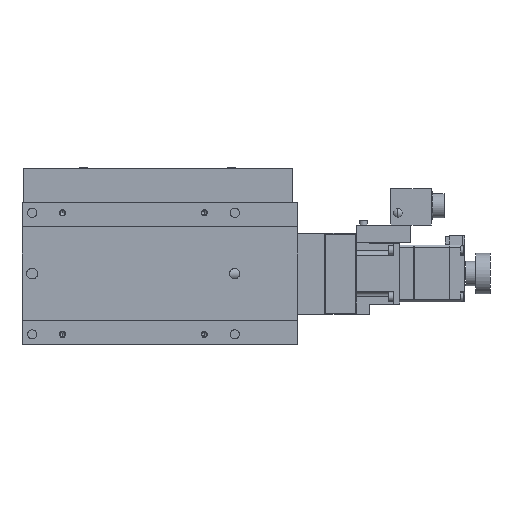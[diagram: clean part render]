
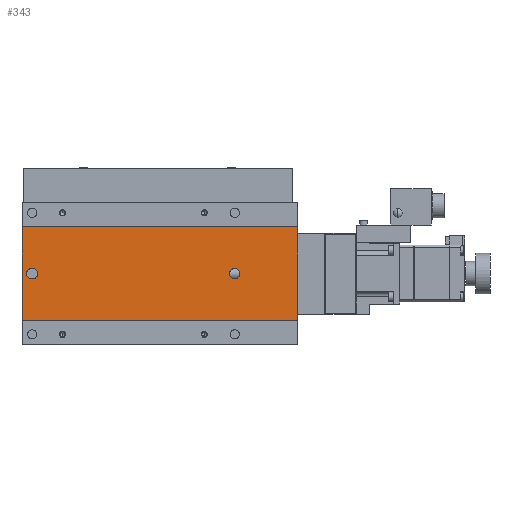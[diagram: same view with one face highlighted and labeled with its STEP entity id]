
A CAD part, front view. The second image highlights one B-rep face of the part: STEP entity #343.
In plain terms, the highlighted planar face has unit normal (0, -1, 0).
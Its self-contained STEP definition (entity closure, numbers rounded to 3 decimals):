
#343=ADVANCED_FACE('',(#1110,#1111,#1112),#1113,.F.);
#1110=FACE_BOUND('',#2696,.T.);
#1111=FACE_OUTER_BOUND('',#2697,.T.);
#1112=FACE_BOUND('',#2698,.T.);
#1113=PLANE('',#2699);
#2696=EDGE_LOOP('',(#4447,#4448,#4449,#4450));
#2697=EDGE_LOOP('',(#4451,#4452,#4453,#4454));
#2698=EDGE_LOOP('',(#4455,#4456,#4457));
#2699=AXIS2_PLACEMENT_3D('',#4458,#4459,#4460);
#4447=ORIENTED_EDGE('',*,*,#10306,.F.);
#4448=ORIENTED_EDGE('',*,*,#10307,.F.);
#4449=ORIENTED_EDGE('',*,*,#10308,.F.);
#4450=ORIENTED_EDGE('',*,*,#10309,.F.);
#4451=ORIENTED_EDGE('',*,*,#10291,.T.);
#4452=ORIENTED_EDGE('',*,*,#10310,.F.);
#4453=ORIENTED_EDGE('',*,*,#10311,.F.);
#4454=ORIENTED_EDGE('',*,*,#10312,.T.);
#4455=ORIENTED_EDGE('',*,*,#10191,.F.);
#4456=ORIENTED_EDGE('',*,*,#10190,.F.);
#4457=ORIENTED_EDGE('',*,*,#10313,.F.);
#4458=CARTESIAN_POINT('',(81.0,0.3,23.1));
#4459=DIRECTION('',(0.0,1.0,0.));
#4460=DIRECTION('',(1.0,0.0,0.0));
#10190=EDGE_CURVE('',#12107,#12109,#12110,.F.);
#10191=EDGE_CURVE('',#12109,#12103,#12111,.F.);
#10291=EDGE_CURVE('',#12298,#12296,#12299,.T.);
#10306=EDGE_CURVE('',#12326,#12327,#12328,.F.);
#10307=EDGE_CURVE('',#12329,#12326,#12330,.T.);
#10308=EDGE_CURVE('',#12331,#12329,#12332,.F.);
#10309=EDGE_CURVE('',#12327,#12331,#12333,.T.);
#10310=EDGE_CURVE('',#12334,#12296,#12335,.T.);
#10311=EDGE_CURVE('',#12336,#12334,#12337,.T.);
#10312=EDGE_CURVE('',#12336,#12298,#12338,.T.);
#10313=EDGE_CURVE('',#12103,#12107,#12339,.F.);
#12103=VERTEX_POINT('',#15179);
#12107=VERTEX_POINT('',#15184);
#12109=VERTEX_POINT('',#15187);
#12110=CIRCLE('',#15188,2.5);
#12111=CIRCLE('',#15189,2.5);
#12296=VERTEX_POINT('',#15430);
#12298=VERTEX_POINT('',#15433);
#12299=LINE('',#15434,#15435);
#12326=VERTEX_POINT('',#15475);
#12327=VERTEX_POINT('',#15476);
#12328=CIRCLE('',#15477,2.5);
#12329=VERTEX_POINT('',#15478);
#12330=LINE('',#15479,#15480);
#12331=VERTEX_POINT('',#15481);
#12332=CIRCLE('',#15482,2.5);
#12333=LINE('',#15483,#15484);
#12334=VERTEX_POINT('',#15485);
#12335=LINE('',#15486,#15487);
#12336=VERTEX_POINT('',#15488);
#12337=LINE('',#15489,#15490);
#12338=LINE('',#15491,#15492);
#12339=CIRCLE('',#15493,2.5);
#15179=CARTESIAN_POINT('',(47.5,0.3,0.));
#15184=CARTESIAN_POINT('',(52.5,0.3,0.));
#15187=CARTESIAN_POINT('',(50.0,0.3,2.5));
#15188=AXIS2_PLACEMENT_3D('',#19731,#19732,#19733);
#15189=AXIS2_PLACEMENT_3D('',#19734,#19735,#19736);
#15430=CARTESIAN_POINT('',(-55.0,0.3,-23.1));
#15433=CARTESIAN_POINT('',(-55.0,0.3,23.1));
#15434=CARTESIAN_POINT('',(-55.0,0.3,23.1));
#15435=VECTOR('',#19920,1000.0);
#15475=CARTESIAN_POINT('',(-50.25,0.3,2.5));
#15476=CARTESIAN_POINT('',(-50.25,0.3,-2.5));
#15477=AXIS2_PLACEMENT_3D('',#19937,#19938,#19939);
#15478=CARTESIAN_POINT('',(-49.75,0.3,2.5));
#15479=CARTESIAN_POINT('',(81.0,0.3,2.5));
#15480=VECTOR('',#19940,1000.0);
#15481=CARTESIAN_POINT('',(-49.75,0.3,-2.5));
#15482=AXIS2_PLACEMENT_3D('',#19941,#19942,#19943);
#15483=CARTESIAN_POINT('',(81.0,0.3,-2.5));
#15484=VECTOR('',#19944,1000.0);
#15485=CARTESIAN_POINT('',(81.0,0.3,-23.1));
#15486=CARTESIAN_POINT('',(81.0,0.3,-23.1));
#15487=VECTOR('',#19945,1000.0);
#15488=CARTESIAN_POINT('',(81.0,0.3,23.1));
#15489=CARTESIAN_POINT('',(81.0,0.3,23.1));
#15490=VECTOR('',#19946,1000.0);
#15491=CARTESIAN_POINT('',(81.0,0.3,23.1));
#15492=VECTOR('',#19947,1000.0);
#15493=AXIS2_PLACEMENT_3D('',#19948,#19949,#19950);
#19731=CARTESIAN_POINT('',(50.0,0.3,0.0));
#19732=DIRECTION('',(0.0,1.0,0.));
#19733=DIRECTION('',(0.0,0.,1.0));
#19734=CARTESIAN_POINT('',(50.0,0.3,0.0));
#19735=DIRECTION('',(0.0,1.0,0.));
#19736=DIRECTION('',(0.0,0.,1.0));
#19920=DIRECTION('',(0.0,0.,-1.0));
#19937=CARTESIAN_POINT('',(-50.25,0.3,0.));
#19938=DIRECTION('',(0.0,1.0,0.));
#19939=DIRECTION('',(0.0,0.,1.0));
#19940=DIRECTION('',(-1.0,0.0,0.0));
#19941=CARTESIAN_POINT('',(-49.75,0.3,0.));
#19942=DIRECTION('',(0.0,1.0,0.));
#19943=DIRECTION('',(0.0,0.,1.0));
#19944=DIRECTION('',(1.0,0.0,0.0));
#19945=DIRECTION('',(-1.0,0.0,0.0));
#19946=DIRECTION('',(0.0,0.,-1.0));
#19947=DIRECTION('',(-1.0,0.0,0.0));
#19948=CARTESIAN_POINT('',(50.0,0.3,0.0));
#19949=DIRECTION('',(0.0,1.0,0.));
#19950=DIRECTION('',(0.0,0.,1.0));
